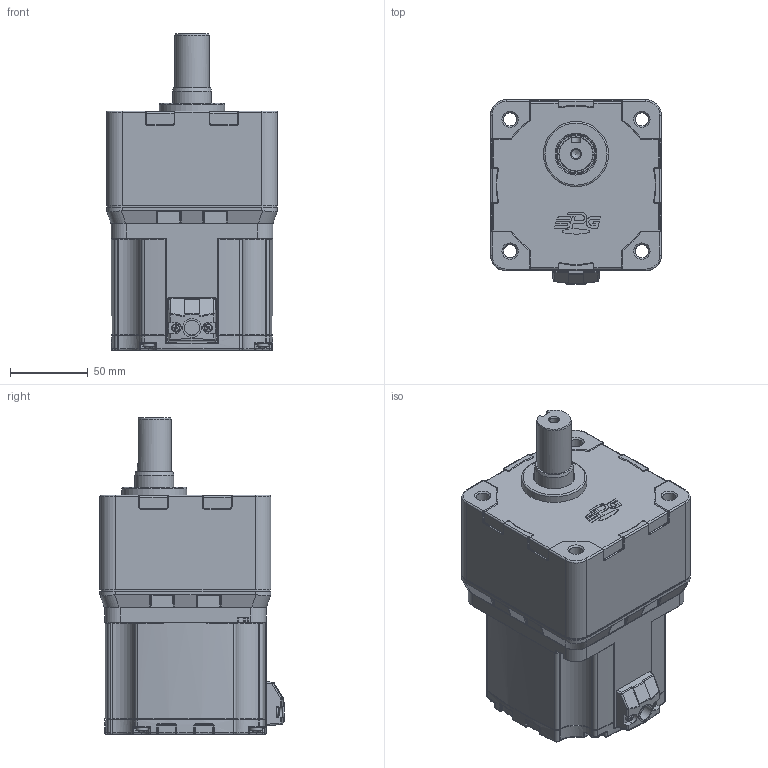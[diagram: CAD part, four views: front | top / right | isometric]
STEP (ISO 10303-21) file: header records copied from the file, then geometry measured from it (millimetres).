
FILE_DESCRIPTION((''),'2;1');
FILE_NAME('C:\Documents and Settings\Administrator\바탕 화면\BLDC 3D FILE\GEARED MOTOR\104-RATIO 30~50.stp','2014-06-19T16:10:48',('kdhkdh'),(''),'Autodesk Inventor 2011','Autodesk Inventor 2011','');
FILE_SCHEMA(('AUTOMOTIVE_DESIGN { 1 0 10303 214 1 1 1 1 }'));
Length unit declared in the file: millimetre
Products named in the file (1): 부품1
Bounding box: 110 x 118.5 x 204 mm (x, y, z)
Volume: 1374482.9 mm3; surface area: 196560.5 mm2
Topology: 1 solids, 14 shells, 1268 faces, 3161 edges, 1902 vertices
Faces by surface type: cylinder 432, plane 362, torus 183, bspline 148, cone 109, sphere 34
Full cylindrical faces by diameter (mm): 2.729 x2, 3 x2, 3.5 x2, 3.621 x4, 4 x12, 4.5 x8, 5.3 x2, 6 x1, 7.64 x4, 8 x4, 8.5 x8, 9.5 x4, 10 x1, 12 x1, 12.04 x1, 13 x1, 15 x1, 22 x2, 25 x2, 26 x1, 42 x1, 81 x1, 94 x2, 95.185 x1, 97 x2
Entity records: 41650 total; most frequent: CARTESIAN_POINT 12764, DIRECTION 6148, ORIENTED_EDGE 5808, EDGE_CURVE 2904, AXIS2_PLACEMENT_3D 2513, VERTEX_POINT 1845, EDGE_LOOP 1475, CIRCLE 1268
